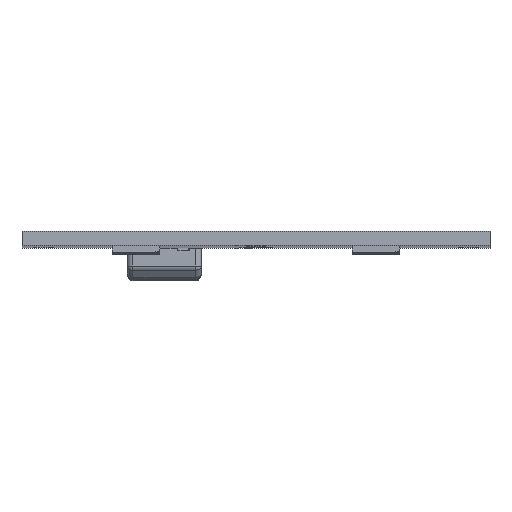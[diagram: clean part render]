
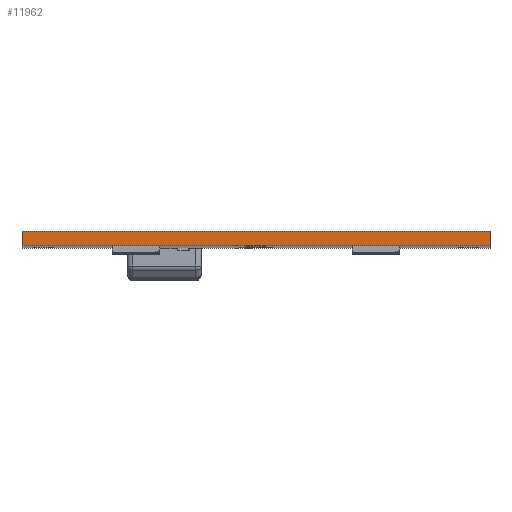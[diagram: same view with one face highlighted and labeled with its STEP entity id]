
A CAD part, top view. The second image highlights one B-rep face of the part: STEP entity #11962.
In plain terms, the highlighted planar face has unit normal (0, 0, 1).
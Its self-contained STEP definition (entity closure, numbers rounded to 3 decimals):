
#996=ORIENTED_EDGE('',*,*,#3481,.T.);
#997=ORIENTED_EDGE('',*,*,#3530,.F.);
#998=ORIENTED_EDGE('',*,*,#3525,.F.);
#999=ORIENTED_EDGE('',*,*,#3531,.T.);
#3481=EDGE_CURVE('',#4764,#4766,#5581,.T.);
#3525=EDGE_CURVE('',#4810,#4811,#5591,.T.);
#3530=EDGE_CURVE('',#4811,#4766,#5596,.T.);
#3531=EDGE_CURVE('',#4810,#4764,#5597,.T.);
#4764=VERTEX_POINT('',#15290);
#4766=VERTEX_POINT('',#15294);
#4810=VERTEX_POINT('',#15398);
#4811=VERTEX_POINT('',#15400);
#5581=LINE('',#15295,#6305);
#5591=LINE('',#15399,#6315);
#5596=LINE('',#15408,#6320);
#5597=LINE('',#15410,#6321);
#6305=VECTOR('',#13191,1000.);
#6315=VECTOR('',#13301,1000.);
#6320=VECTOR('',#13310,1000.);
#6321=VECTOR('',#13313,1000.);
#7042=EDGE_LOOP('',(#996,#997,#998,#999));
#7626=FACE_BOUND('',#7042,.T.);
#8134=PLANE('',#12513);
#11962=ADVANCED_FACE('',(#7626),#8134,.F.);
#12513=AXIS2_PLACEMENT_3D('',#15409,#13311,#13312);
#13191=DIRECTION('',(1.,0.,0.));
#13301=DIRECTION('',(1.,0.,0.));
#13310=DIRECTION('',(0.,-1.,0.));
#13311=DIRECTION('',(0.,0.,-1.));
#13312=DIRECTION('',(-1.,0.,0.));
#13313=DIRECTION('',(0.,-1.,0.));
#15290=CARTESIAN_POINT('',(-24.75,0.,86.1));
#15294=CARTESIAN_POINT('',(24.75,0.,86.1));
#15295=CARTESIAN_POINT('',(-24.75,0.,86.1));
#15398=CARTESIAN_POINT('',(-24.75,1.5,86.1));
#15399=CARTESIAN_POINT('',(-24.75,1.5,86.1));
#15400=CARTESIAN_POINT('',(24.75,1.5,86.1));
#15408=CARTESIAN_POINT('',(24.75,1.5,86.1));
#15409=CARTESIAN_POINT('',(-24.75,1.5,86.1));
#15410=CARTESIAN_POINT('',(-24.75,1.5,86.1));
